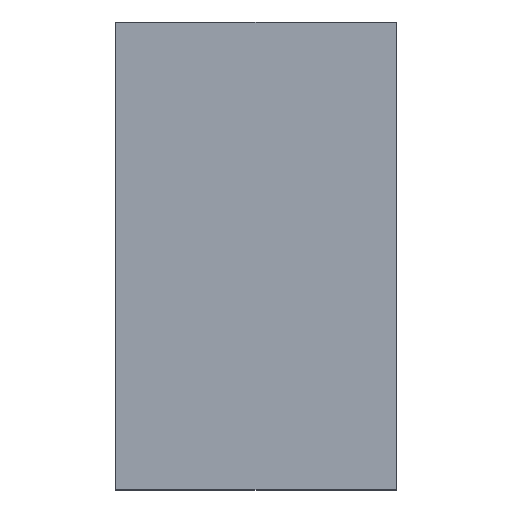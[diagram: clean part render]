
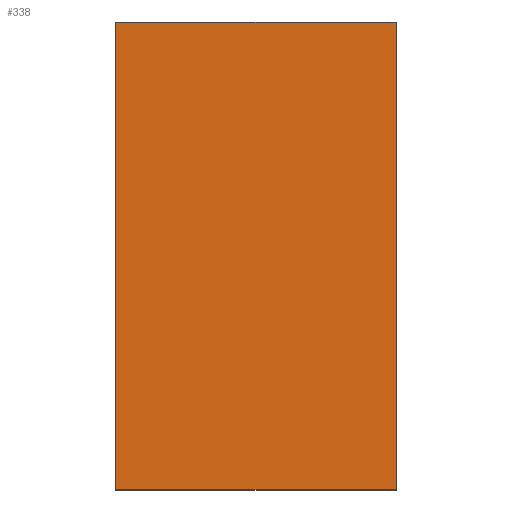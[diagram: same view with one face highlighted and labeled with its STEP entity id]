
A CAD part, top view. The second image highlights one B-rep face of the part: STEP entity #338.
In plain terms, the highlighted planar face has unit normal (0, 0, 1).
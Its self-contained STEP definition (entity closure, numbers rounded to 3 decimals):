
#24 = VERTEX_POINT('',#25);
#25 = CARTESIAN_POINT('',(38.,-5.,16.1));
#32 = PLANE('',#33);
#33 = AXIS2_PLACEMENT_3D('',#34,#35,#36);
#34 = CARTESIAN_POINT('',(38.,-5.,14.5));
#35 = DIRECTION('',(-1.,0.,0.));
#36 = DIRECTION('',(0.,1.,0.));
#44 = PLANE('',#45);
#45 = AXIS2_PLACEMENT_3D('',#46,#47,#48);
#46 = CARTESIAN_POINT('',(32.,-5.,14.5));
#47 = DIRECTION('',(0.,1.,0.));
#48 = DIRECTION('',(1.,0.,0.));
#56 = EDGE_CURVE('',#24,#57,#59,.T.);
#57 = VERTEX_POINT('',#58);
#58 = CARTESIAN_POINT('',(38.,5.,16.1));
#59 = SURFACE_CURVE('',#60,(#64,#71),.PCURVE_S1.);
#60 = LINE('',#61,#62);
#61 = CARTESIAN_POINT('',(38.,-5.,16.1));
#62 = VECTOR('',#63,1.);
#63 = DIRECTION('',(0.,1.,0.));
#64 = PCURVE('',#32,#65);
#65 = DEFINITIONAL_REPRESENTATION('',(#66),#70);
#66 = LINE('',#67,#68);
#67 = CARTESIAN_POINT('',(0.,-1.6));
#68 = VECTOR('',#69,1.);
#69 = DIRECTION('',(1.,0.));
#70 = ( GEOMETRIC_REPRESENTATION_CONTEXT(2) 
PARAMETRIC_REPRESENTATION_CONTEXT() REPRESENTATION_CONTEXT('2D SPACE',''
  ) );
#71 = PCURVE('',#72,#77);
#72 = PLANE('',#73);
#73 = AXIS2_PLACEMENT_3D('',#74,#75,#76);
#74 = CARTESIAN_POINT('',(35.,0.,16.1));
#75 = DIRECTION('',(0.,0.,1.));
#76 = DIRECTION('',(1.,0.,0.));
#77 = DEFINITIONAL_REPRESENTATION('',(#78),#82);
#78 = LINE('',#79,#80);
#79 = CARTESIAN_POINT('',(3.,-5.));
#80 = VECTOR('',#81,1.);
#81 = DIRECTION('',(0.,1.));
#82 = ( GEOMETRIC_REPRESENTATION_CONTEXT(2) 
PARAMETRIC_REPRESENTATION_CONTEXT() REPRESENTATION_CONTEXT('2D SPACE',''
  ) );
#100 = PLANE('',#101);
#101 = AXIS2_PLACEMENT_3D('',#102,#103,#104);
#102 = CARTESIAN_POINT('',(38.,5.,14.5));
#103 = DIRECTION('',(0.,-1.,0.));
#104 = DIRECTION('',(-1.,0.,0.));
#142 = EDGE_CURVE('',#57,#143,#145,.T.);
#143 = VERTEX_POINT('',#144);
#144 = CARTESIAN_POINT('',(32.,5.,16.1));
#145 = SURFACE_CURVE('',#146,(#150,#157),.PCURVE_S1.);
#146 = LINE('',#147,#148);
#147 = CARTESIAN_POINT('',(38.,5.,16.1));
#148 = VECTOR('',#149,1.);
#149 = DIRECTION('',(-1.,0.,0.));
#150 = PCURVE('',#100,#151);
#151 = DEFINITIONAL_REPRESENTATION('',(#152),#156);
#152 = LINE('',#153,#154);
#153 = CARTESIAN_POINT('',(0.,-1.6));
#154 = VECTOR('',#155,1.);
#155 = DIRECTION('',(1.,0.));
#156 = ( GEOMETRIC_REPRESENTATION_CONTEXT(2) 
PARAMETRIC_REPRESENTATION_CONTEXT() REPRESENTATION_CONTEXT('2D SPACE',''
  ) );
#157 = PCURVE('',#72,#158);
#158 = DEFINITIONAL_REPRESENTATION('',(#159),#163);
#159 = LINE('',#160,#161);
#160 = CARTESIAN_POINT('',(3.,5.));
#161 = VECTOR('',#162,1.);
#162 = DIRECTION('',(-1.,0.));
#163 = ( GEOMETRIC_REPRESENTATION_CONTEXT(2) 
PARAMETRIC_REPRESENTATION_CONTEXT() REPRESENTATION_CONTEXT('2D SPACE',''
  ) );
#181 = PLANE('',#182);
#182 = AXIS2_PLACEMENT_3D('',#183,#184,#185);
#183 = CARTESIAN_POINT('',(32.,5.,14.5));
#184 = DIRECTION('',(1.,0.,0.));
#185 = DIRECTION('',(0.,-1.,0.));
#218 = EDGE_CURVE('',#143,#219,#221,.T.);
#219 = VERTEX_POINT('',#220);
#220 = CARTESIAN_POINT('',(32.,-5.,16.1));
#221 = SURFACE_CURVE('',#222,(#226,#233),.PCURVE_S1.);
#222 = LINE('',#223,#224);
#223 = CARTESIAN_POINT('',(32.,5.,16.1));
#224 = VECTOR('',#225,1.);
#225 = DIRECTION('',(0.,-1.,0.));
#226 = PCURVE('',#181,#227);
#227 = DEFINITIONAL_REPRESENTATION('',(#228),#232);
#228 = LINE('',#229,#230);
#229 = CARTESIAN_POINT('',(0.,-1.6));
#230 = VECTOR('',#231,1.);
#231 = DIRECTION('',(1.,0.));
#232 = ( GEOMETRIC_REPRESENTATION_CONTEXT(2) 
PARAMETRIC_REPRESENTATION_CONTEXT() REPRESENTATION_CONTEXT('2D SPACE',''
  ) );
#233 = PCURVE('',#72,#234);
#234 = DEFINITIONAL_REPRESENTATION('',(#235),#239);
#235 = LINE('',#236,#237);
#236 = CARTESIAN_POINT('',(-3.,5.));
#237 = VECTOR('',#238,1.);
#238 = DIRECTION('',(0.,-1.));
#239 = ( GEOMETRIC_REPRESENTATION_CONTEXT(2) 
PARAMETRIC_REPRESENTATION_CONTEXT() REPRESENTATION_CONTEXT('2D SPACE',''
  ) );
#289 = EDGE_CURVE('',#219,#24,#290,.T.);
#290 = SURFACE_CURVE('',#291,(#295,#302),.PCURVE_S1.);
#291 = LINE('',#292,#293);
#292 = CARTESIAN_POINT('',(32.,-5.,16.1));
#293 = VECTOR('',#294,1.);
#294 = DIRECTION('',(1.,0.,0.));
#295 = PCURVE('',#44,#296);
#296 = DEFINITIONAL_REPRESENTATION('',(#297),#301);
#297 = LINE('',#298,#299);
#298 = CARTESIAN_POINT('',(0.,-1.6));
#299 = VECTOR('',#300,1.);
#300 = DIRECTION('',(1.,0.));
#301 = ( GEOMETRIC_REPRESENTATION_CONTEXT(2) 
PARAMETRIC_REPRESENTATION_CONTEXT() REPRESENTATION_CONTEXT('2D SPACE',''
  ) );
#302 = PCURVE('',#72,#303);
#303 = DEFINITIONAL_REPRESENTATION('',(#304),#308);
#304 = LINE('',#305,#306);
#305 = CARTESIAN_POINT('',(-3.,-5.));
#306 = VECTOR('',#307,1.);
#307 = DIRECTION('',(1.,0.));
#308 = ( GEOMETRIC_REPRESENTATION_CONTEXT(2) 
PARAMETRIC_REPRESENTATION_CONTEXT() REPRESENTATION_CONTEXT('2D SPACE',''
  ) );
#338 = ADVANCED_FACE('',(#339),#72,.T.);
#339 = FACE_BOUND('',#340,.T.);
#340 = EDGE_LOOP('',(#341,#342,#343,#344));
#341 = ORIENTED_EDGE('',*,*,#56,.T.);
#342 = ORIENTED_EDGE('',*,*,#142,.T.);
#343 = ORIENTED_EDGE('',*,*,#218,.T.);
#344 = ORIENTED_EDGE('',*,*,#289,.T.);
